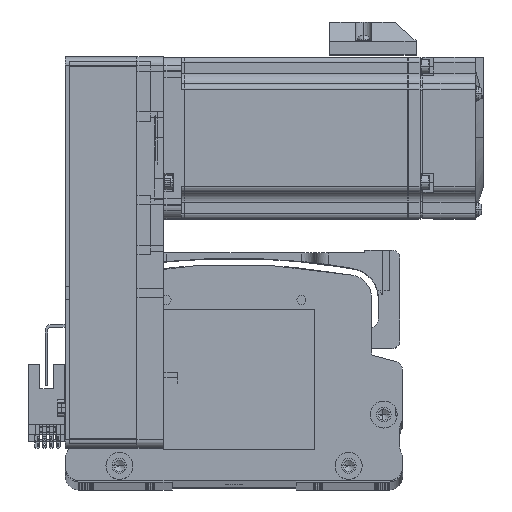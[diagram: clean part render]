
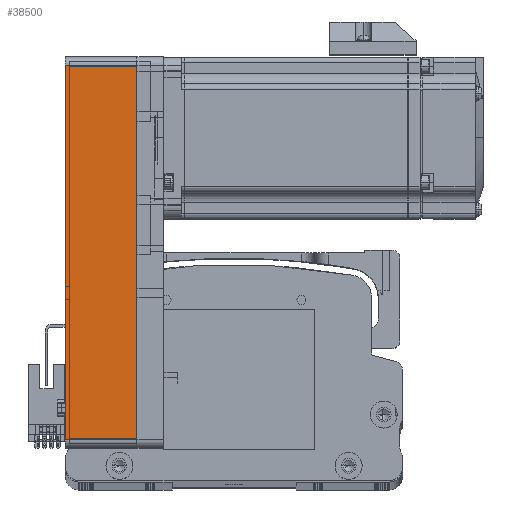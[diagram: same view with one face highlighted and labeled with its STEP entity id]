
A CAD part, top view. The second image highlights one B-rep face of the part: STEP entity #38500.
In plain terms, the highlighted planar face has unit normal (0, 0, 1) as drawn and (0, -1, 0) by its records, which use the part's own axes.
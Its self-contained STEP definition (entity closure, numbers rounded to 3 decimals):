
#1344 = CARTESIAN_POINT ( 'NONE',  ( 69.5, -30., 0. ) ) ;
#6369 = EDGE_LOOP ( 'NONE', ( #60495, #85253, #63265, #23133 ) ) ;
#7761 = VERTEX_POINT ( 'NONE', #16064 ) ;
#16064 = CARTESIAN_POINT ( 'NONE',  ( -69.5, -30., 26.5 ) ) ;
#21232 = DIRECTION ( 'NONE',  ( 1., 0., 0. ) ) ;
#22190 = CARTESIAN_POINT ( 'NONE',  ( -69.5, -30., 26.5 ) ) ;
#23133 = ORIENTED_EDGE ( 'NONE', *, *, #49612, .T. ) ;
#24437 = DIRECTION ( 'NONE',  ( 0., 1., 0. ) ) ;
#28504 = VECTOR ( 'NONE', #78727, 1000. ) ;
#28542 = VECTOR ( 'NONE', #29078, 1000. ) ;
#29078 = DIRECTION ( 'NONE',  ( 0., 0., -1. ) ) ;
#30169 = CARTESIAN_POINT ( 'NONE',  ( 69.5, -30., 26.5 ) ) ;
#30756 = CARTESIAN_POINT ( 'NONE',  ( 69.5, -30., 26.5 ) ) ;
#38500 = ADVANCED_FACE ( 'NONE', ( #82880 ), #72029, .F. ) ;
#39978 = VERTEX_POINT ( 'NONE', #30169 ) ;
#42494 = LINE ( 'NONE', #69100, #58527 ) ;
#43941 = CARTESIAN_POINT ( 'NONE',  ( -69.5, -30., 0. ) ) ;
#46613 = CARTESIAN_POINT ( 'NONE',  ( 72.5, -30., 0. ) ) ;
#46888 = VECTOR ( 'NONE', #67260, 1000. ) ;
#49042 = LINE ( 'NONE', #46613, #46888 ) ;
#49612 = EDGE_CURVE ( 'NONE', #7761, #66779, #83276, .T. ) ;
#52615 = AXIS2_PLACEMENT_3D ( 'NONE', #65429, #24437, #72333 ) ;
#58527 = VECTOR ( 'NONE', #21232, 1000. ) ;
#60495 = ORIENTED_EDGE ( 'NONE', *, *, #81634, .T. ) ;
#61476 = EDGE_CURVE ( 'NONE', #7761, #39978, #42494, .T. ) ;
#61722 = EDGE_CURVE ( 'NONE', #62856, #39978, #67049, .T. ) ;
#62856 = VERTEX_POINT ( 'NONE', #1344 ) ;
#63265 = ORIENTED_EDGE ( 'NONE', *, *, #61476, .F. ) ;
#65429 = CARTESIAN_POINT ( 'NONE',  ( 72.5, -30., 26.5 ) ) ;
#66779 = VERTEX_POINT ( 'NONE', #43941 ) ;
#67049 = LINE ( 'NONE', #30756, #28504 ) ;
#67260 = DIRECTION ( 'NONE',  ( 1., 0., 0. ) ) ;
#69100 = CARTESIAN_POINT ( 'NONE',  ( 72.5, -30., 26.5 ) ) ;
#72029 = PLANE ( 'NONE',  #52615 ) ;
#72333 = DIRECTION ( 'NONE',  ( -1., 0., 0. ) ) ;
#78727 = DIRECTION ( 'NONE',  ( 0., 0., 1. ) ) ;
#81634 = EDGE_CURVE ( 'NONE', #66779, #62856, #49042, .T. ) ;
#82880 = FACE_OUTER_BOUND ( 'NONE', #6369, .T. ) ;
#83276 = LINE ( 'NONE', #22190, #28542 ) ;
#85253 = ORIENTED_EDGE ( 'NONE', *, *, #61722, .T. ) ;
